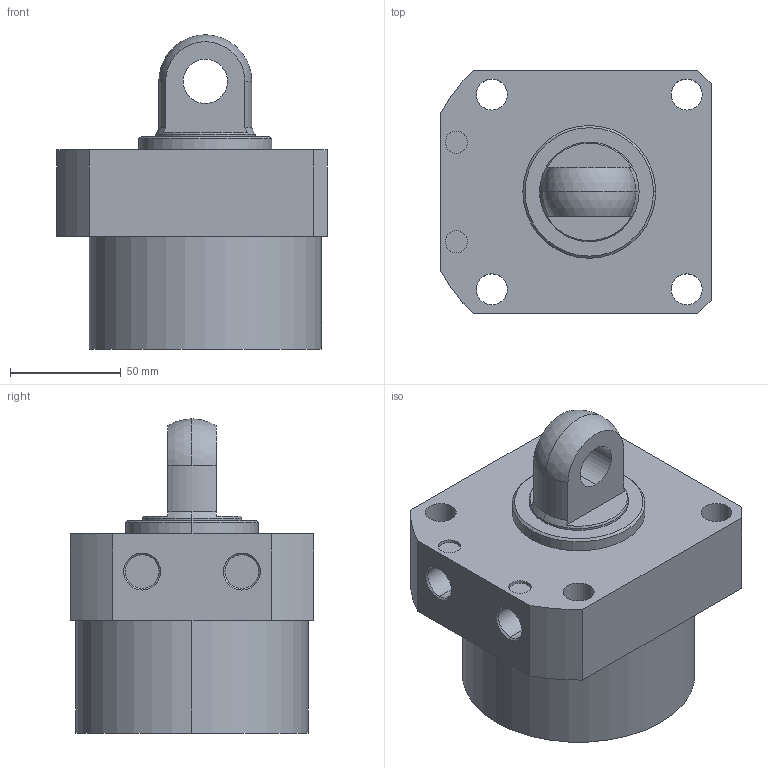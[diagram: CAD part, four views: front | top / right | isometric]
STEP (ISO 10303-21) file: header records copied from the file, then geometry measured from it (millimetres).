
FILE_DESCRIPTION (( 'STEP AP203' ), '1' );
FILE_NAME ('CLLR-105CP-030.STEP', '2019-12-19T02:03:22', ( '' ), ( '' ), 'SwSTEP 2.0', 'SolidWorks 2015', '' );
FILE_SCHEMA (( 'CONFIG_CONTROL_DESIGN' ));
Length unit declared in the file: millimetre
Products named in the file (1): CLLR-105CP-030
Bounding box: 122 x 110 x 142 mm (x, y, z)
Volume: 967811.5 mm3; surface area: 74502.2 mm2
Topology: 1 solids, 1 shells, 57 faces, 135 edges, 87 vertices
Faces by surface type: cylinder 29, plane 18, cone 8, sphere 2
Entity records: 1770 total; most frequent: DIRECTION 319, CARTESIAN_POINT 292, ORIENTED_EDGE 270, EDGE_CURVE 135, AXIS2_PLACEMENT_3D 130, VERTEX_POINT 87, EDGE_LOOP 74, CIRCLE 72
